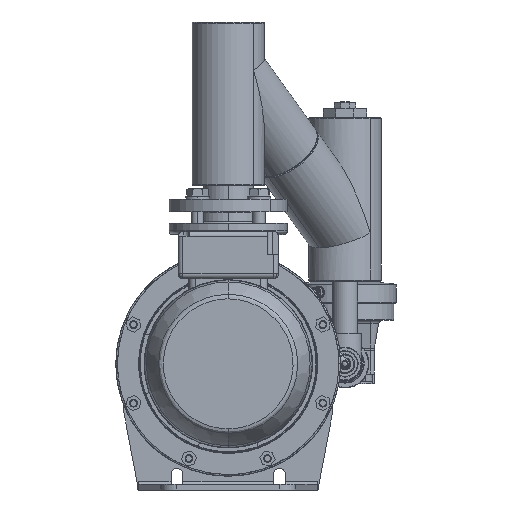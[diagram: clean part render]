
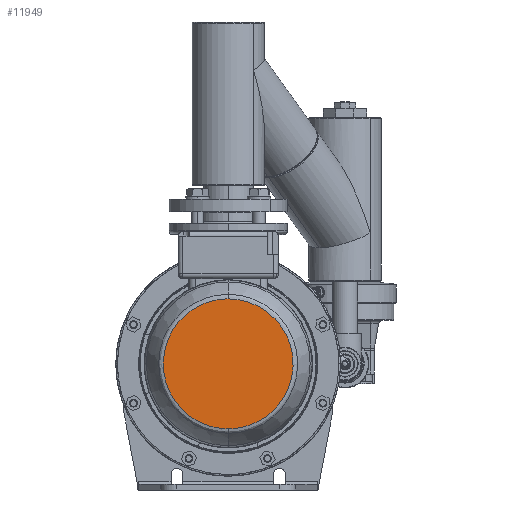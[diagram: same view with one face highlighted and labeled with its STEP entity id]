
A CAD part, front view. The second image highlights one B-rep face of the part: STEP entity #11949.
In plain terms, the highlighted planar face has unit normal (0, -1, 0).
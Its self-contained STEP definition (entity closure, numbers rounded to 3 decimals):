
#11924 = EDGE_LOOP ( 'NONE', ( #11946, #11931 ) ) ;
#11931 = ORIENTED_EDGE ( 'NONE', *, *, #12000, .F. ) ;
#11946 = ORIENTED_EDGE ( 'NONE', *, *, #63197, .F. ) ;
#11949 = ADVANCED_FACE ( 'NONE', ( #17011 ), #16762, .T. ) ;
#12000 = EDGE_CURVE ( 'NONE', #63246, #63312, #17160, .T. ) ;
#16762 = PLANE ( 'NONE',  #16977 ) ;
#16977 = AXIS2_PLACEMENT_3D ( 'NONE', #17003, #17002, #17001 ) ;
#17001 = DIRECTION ( 'NONE',  ( 1., 0., 0. ) ) ;
#17002 = DIRECTION ( 'NONE',  ( 0., -1., 0. ) ) ;
#17003 = CARTESIAN_POINT ( 'NONE',  ( -154.478, -718.887, 25. ) ) ;
#17011 = FACE_OUTER_BOUND ( 'NONE', #11924, .T. ) ;
#17143 = CARTESIAN_POINT ( 'NONE',  ( -154.478, -718.887, -57.337 ) ) ;
#17144 = CARTESIAN_POINT ( 'NONE',  ( 10.196, -718.887, -57.337 ) ) ;
#17145 = CARTESIAN_POINT ( 'NONE',  ( 10.196, -718.887, 107.337 ) ) ;
#17146 = CARTESIAN_POINT ( 'NONE',  ( -154.478, -718.887, 107.337 ) ) ;
#17160 =( BOUNDED_CURVE ( )  B_SPLINE_CURVE ( 3, ( #17146, #17145, #17144, #17143 ),
 .UNSPECIFIED., .F., .T. ) 
 B_SPLINE_CURVE_WITH_KNOTS ( ( 4, 4 ),
 ( 0., 1. ),
 .UNSPECIFIED. ) 
 CURVE ( )  GEOMETRIC_REPRESENTATION_ITEM ( )  RATIONAL_B_SPLINE_CURVE ( ( 1., 0.333, 0.333, 1. ) ) 
 REPRESENTATION_ITEM ( '' )  );
#63197 = EDGE_CURVE ( 'NONE', #63312, #63246, #112162, .T. ) ;
#63246 = VERTEX_POINT ( 'NONE', #112320 ) ;
#63312 = VERTEX_POINT ( 'NONE', #112376 ) ;
#112156 = CARTESIAN_POINT ( 'NONE',  ( -154.478, -718.887, 107.337 ) ) ;
#112157 = CARTESIAN_POINT ( 'NONE',  ( -319.153, -718.887, 107.337 ) ) ;
#112158 = CARTESIAN_POINT ( 'NONE',  ( -319.153, -718.887, -57.337 ) ) ;
#112159 = CARTESIAN_POINT ( 'NONE',  ( -154.478, -718.887, -57.337 ) ) ;
#112162 =( BOUNDED_CURVE ( )  B_SPLINE_CURVE ( 3, ( #112159, #112158, #112157, #112156 ),
 .UNSPECIFIED., .F., .T. ) 
 B_SPLINE_CURVE_WITH_KNOTS ( ( 4, 4 ),
 ( 0., 1. ),
 .UNSPECIFIED. ) 
 CURVE ( )  GEOMETRIC_REPRESENTATION_ITEM ( )  RATIONAL_B_SPLINE_CURVE ( ( 1., 0.333, 0.333, 1. ) ) 
 REPRESENTATION_ITEM ( '' )  );
#112320 = CARTESIAN_POINT ( 'NONE',  ( -154.478, -718.887, 107.337 ) ) ;
#112376 = CARTESIAN_POINT ( 'NONE',  ( -154.478, -718.887, -57.337 ) ) ;
